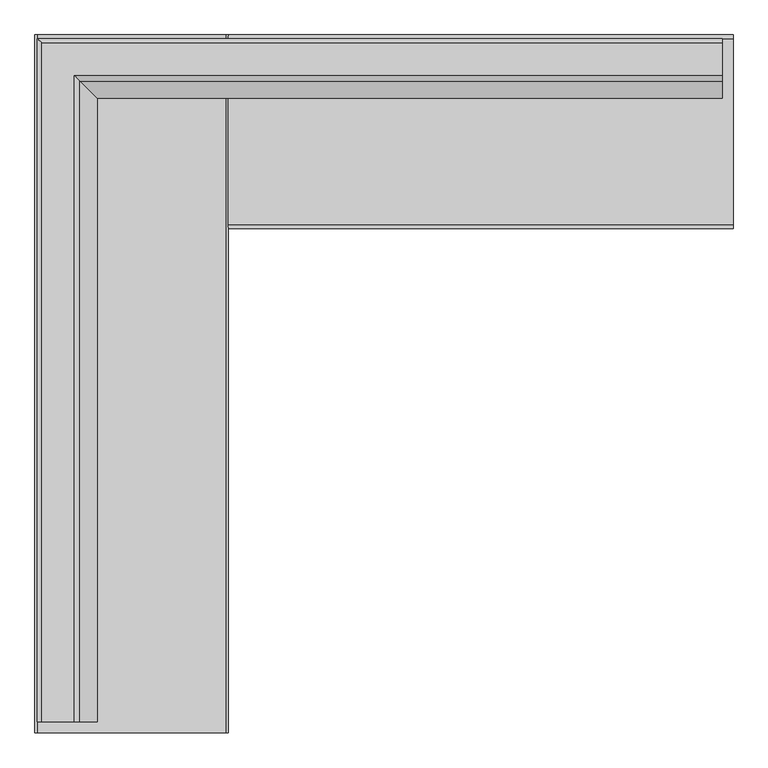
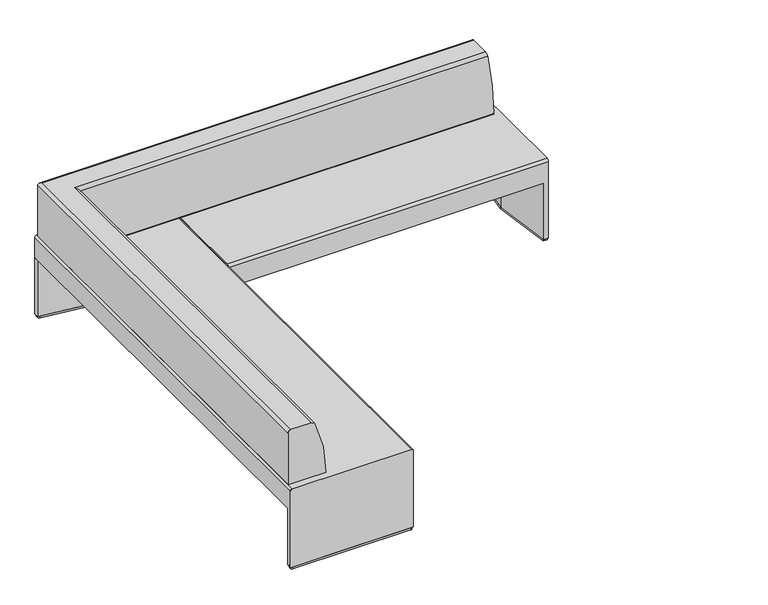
"""IFC4 building model written with IfcOpenShell, lengths in millimetres: furniture geometry, Coalesse_AM_Seating_Bench_Together_LeftCorner : 1.5in Back Offset - 96.5D x 96.5W."""

from ifc_helpers import new_model, si_unit, point, frame, frame_2d, origin, origin_with_axes, place, context, project, spatial, polyline, circle_curve, ellipse_curve, trimmed, segment, composite_curve, outline, extrude, source, transform, mapped, element, save
from ifc_brep_helpers import plane_surface, cylinder_surface, advanced_brep


def furniture_f36d45e6(model_context):
    return source(origin(), model_context, "Body", "SolidModel", [
        extrude(outline(composite_curve([segment(polyline([(1701.7260341, 342.7173042), (1745.4494541, 668.3404046)]), True, "CONTINUOUS"), segment(trimmed(circle_curve(frame_2d((1752.4178665, 667.4047129)), 7.0309522), [point((1745.4494541, 668.3404046))], [point((1752.4121236, 674.4356628))], False, "CARTESIAN"), True, "CONTINUOUS"), segment(polyline([(1752.4121236, 674.4356628), (1764.935141, 674.4458915)]), True, "CONTINUOUS"), segment(trimmed(circle_curve(frame_2d((1764.9403277, 668.0958937)), 6.35), [point((1764.935141, 674.4458915))], [point((1771.2903256, 668.1010803))], False, "CARTESIAN"), True, "CONTINUOUS"), segment(polyline([(1771.2903256, 668.1010803), (1771.8258418, 12.4700002)]), True, "CONTINUOUS"), segment(trimmed(circle_curve(frame_2d((1765.4758439, 12.4648135)), 6.35), [point((1771.8258418, 12.4700002))], [point((1765.4810305, 6.1148157))], False, "CARTESIAN"), True, "CONTINUOUS"), segment(polyline([(1765.4810305, 6.1148157), (1753.0237657, 6.1046406)]), True, "CONTINUOUS"), segment(trimmed(circle_curve(frame_2d((1753.0185791, 12.4546385)), 6.35), [point((1753.0237657, 6.1046406))], [point((1746.7264214, 11.5995062))], False, "CARTESIAN"), True, "CONTINUOUS"), segment(polyline([(1746.7264214, 11.5995062), (1701.7260341, 342.7173042)]), True, "CONTINUOUS")], self_intersect=False)), origin_with_axes(), (0.0, 0.0, 1.0), 12.7976677),
        extrude(outline(composite_curve([segment(polyline([(-342.242834, 610.6565573), (-667.8301127, 654.6459299)]), True, "CONTINUOUS"), segment(trimmed(circle_curve(frame_2d((-666.8887296, 661.6135757)), 7.0309522), [point((-667.8301127, 654.6459299))], [point((-673.9196818, 661.6135757))], False, "CARTESIAN"), True, "CONTINUOUS"), segment(polyline([(-673.9196818, 661.6135757), (-673.9196818, 674.1365973)]), True, "CONTINUOUS"), segment(trimmed(circle_curve(frame_2d((-667.5696818, 674.1365973)), 6.35), [point((-673.9196818, 674.1365973))], [point((-667.5696818, 680.4865973))], False, "CARTESIAN"), True, "CONTINUOUS"), segment(polyline([(-667.5696818, 680.4865973), (-11.938383, 680.4865973)]), True, "CONTINUOUS"), segment(trimmed(circle_curve(frame_2d((-11.938383, 674.1365973)), 6.35), [point((-11.938383, 680.4865973))], [point((-5.588383, 674.1365973))], False, "CARTESIAN"), True, "CONTINUOUS"), segment(polyline([(-5.588383, 674.1365973), (-5.588383, 661.6793283)]), True, "CONTINUOUS"), segment(trimmed(circle_curve(frame_2d((-11.938383, 661.6793283)), 6.35), [point((-5.588383, 661.6793283))], [point((-11.0883904, 655.3864742))], False, "CARTESIAN"), True, "CONTINUOUS"), segment(polyline([(-11.0883904, 655.3864742), (-342.242834, 610.6565573)]), True, "CONTINUOUS")], self_intersect=False)), origin_with_axes(), (0.0, 0.0, 1.0), 12.7976677),
        extrude(outline(composite_curve([segment(polyline([(-342.242834, -1700.1204812), (-11.0883904, -1744.8503981)]), True, "CONTINUOUS"), segment(trimmed(circle_curve(frame_2d((-11.938383, -1751.1432522)), 6.35), [point((-11.0883904, -1744.8503981))], [point((-5.588383, -1751.1432522))], False, "CARTESIAN"), True, "CONTINUOUS"), segment(polyline([(-5.588383, -1751.1432522), (-5.588383, -1763.6005212)]), True, "CONTINUOUS"), segment(trimmed(circle_curve(frame_2d((-11.938383, -1763.6005212)), 6.35), [point((-5.588383, -1763.6005212))], [point((-11.938383, -1769.9505212))], False, "CARTESIAN"), True, "CONTINUOUS"), segment(polyline([(-11.938383, -1769.9505212), (-667.5696818, -1769.9505212)]), True, "CONTINUOUS"), segment(trimmed(circle_curve(frame_2d((-667.5696818, -1763.6005212)), 6.35), [point((-667.5696818, -1769.9505212))], [point((-673.9196818, -1763.6005212))], False, "CARTESIAN"), True, "CONTINUOUS"), segment(polyline([(-673.9196818, -1763.6005212), (-673.9196818, -1751.0774996)]), True, "CONTINUOUS"), segment(trimmed(circle_curve(frame_2d((-666.8887296, -1751.0774996)), 7.0309522), [point((-673.9196818, -1751.0774996))], [point((-667.8301127, -1744.1098538))], False, "CARTESIAN"), True, "CONTINUOUS"), segment(polyline([(-667.8301127, -1744.1098538), (-342.242834, -1700.1204812)]), True, "CONTINUOUS")], self_intersect=False)), origin_with_axes(), (0.0, 0.0, 1.0), 12.7976677),
        advanced_brep(
        [(1771.7783223, 12.7, 471.2287949), (1771.7783223, 0.0, 458.5287949), (1771.7783223, 0.0, 12.7976677), (1771.7783223, 680.4865973, 12.7976677), (1771.7783223, 680.4865973, 458.5287949), (1771.7783223, 667.7865973, 471.2287949), (0.0, 12.7, 471.2287949), (0.0, 667.7865973, 471.2287949), (0.0, 680.4865973, 458.5287949), (0.0, 680.4865973, 343.3718099), (0.0, 0.0, 343.3718099), (0.0, 0.0, 458.5287949), (1745.6026241, 0.0, 343.3718099), (1745.6015424, 0.0, 12.7976677), (1745.9085944, 680.4865973, 343.3718099), (1701.2700419, 337.8527218, 343.3718099), (1745.9096556, 680.4865973, 12.7976677), (1701.2700419, 337.8527218, 12.7976677)],
        [
            (0, 1, circle_curve(frame((1771.7783223, 12.7, 458.5287949), z_axis=(1.0, 0.0, 0.0), x_axis=(0.0, -1.0, 0.0)), 12.7)),
            (1, 2),
            (2, 3),
            (3, 4),
            (4, 5, circle_curve(frame((1771.7783223, 667.7865973, 458.5287949), z_axis=(1.0, 0.0, 0.0), x_axis=(0.0, -1.0, 0.0)), 12.7)),
            (5, 0),
            (6, 7),
            (7, 8, circle_curve(frame((0.0, 667.7865973, 458.5287949), z_axis=(-1.0, 0.0, 0.0), x_axis=(0.0, -1.0, 0.0)), 12.7)),
            (8, 9),
            (9, 10),
            (10, 11),
            (11, 6, circle_curve(frame((0.0, 12.7, 458.5287949), z_axis=(-1.0, 0.0, 0.0), x_axis=(0.0, -1.0, 0.0)), 12.7)),
            (0, 6),
            (11, 1),
            (10, 12),
            (12, 13),
            (13, 2),
            (9, 14),
            (14, 15),
            (15, 12),
            (3, 16),
            (16, 14),
            (8, 4),
            (7, 5),
            (17, 16),
            (13, 17),
            (15, 17),
        ],
        [
            plane_surface(frame((1771.7783223, 0.0, 458.5287949), z_axis=(1.0, 0.0, 0.0), x_axis=(0.0, 0.0, -1.0))),
            plane_surface(frame((0.0, 0.0, 458.5287949), z_axis=(-1.0, 0.0, 0.0), x_axis=(0.0, 0.0, 1.0))),
            cylinder_surface(frame((0.0, 12.7, 458.5287949), z_axis=(1.0, 0.0, 0.0), x_axis=(0.0, -1.0, 0.0)), 12.7),
            plane_surface(frame((1771.7783223, 0.0, 458.5287949), z_axis=(0.0, -1.0, 0.0), x_axis=(-1.0, 0.0, 0.0))),
            plane_surface(frame((1771.7783223, 0.0, 343.3718099), z_axis=(0.0, 0.0, -1.0), x_axis=(-1.0, 0.0, 0.0))),
            plane_surface(frame((1771.7783223, 680.4865973, 343.3718099), z_axis=(0.0, 1.0, 0.0), x_axis=(-1.0, 0.0, 0.0))),
            cylinder_surface(frame((0.0, 667.7865973, 458.5287949), z_axis=(1.0, 0.0, 0.0), x_axis=(0.0, -1.0, 0.0)), 12.7),
            plane_surface(frame((1771.7783223, 667.7865973, 471.2287949), z_axis=(0.0, 0.0, 1.0), x_axis=(-1.0, 0.0, 0.0))),
            plane_surface(frame((1701.2700419, 337.8527218, 12.7976677), z_axis=(0.0, 0.0, -1.0), x_axis=(-0.13010336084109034, 0.9915004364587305, 0.0))),
            plane_surface(frame((1701.2700419, 337.8527218, 343.3718099), z_axis=(-0.9915004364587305, -0.13010336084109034, 0.0), x_axis=(0.0, 0.0, -1.0))),
            plane_surface(frame((1745.9096556, 680.4947435, 343.3718099), z_axis=(-0.9916200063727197, 0.1291888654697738, 0.0), x_axis=(0.0, 0.0, -1.0))),
        ],
        [
            (0, [[1, 2, 3, 4, 5, 6]]),
            (1, [[7, 8, 9, 10, 11, 12]]),
            (2, [[-1, 13, -12, 14]]),
            (3, [[-2, -14, -11, 15, 16, 17]]),
            (4, [[-10, 18, 19, 20, -15]]),
            (5, [[-4, 21, 22, -18, -9, 23]]),
            (6, [[-5, -23, -8, 24]]),
            (7, [[-6, -24, -7, -13]]),
            (8, [[25, -21, -3, -17, 26]]),
            (9, [[-26, -16, -20, 27]]),
            (10, [[-25, -27, -19, -22]]),
        ],
    ),
        advanced_brep(
        [(0.0, -1770.8336068, 462.8584293), (-8.3703656, -1770.8336068, 471.2287949), (-669.1616777, -1770.8336068, 471.2287949), (-679.3216777, -1770.8336068, 461.0687949), (-679.3216777, -1770.8336068, 12.7976677), (0.0, -1770.8336068, 12.7976677), (0.0, 680.2663932, 343.3718099), (-679.3216777, 680.2663932, 343.3718099), (-679.3216777, 680.2663932, 461.0687949), (-669.1616777, 680.2663932, 471.2287949), (-8.3703656, 680.2663932, 471.2287949), (0.0, 680.2663932, 462.8584293), (0.0, -1744.8418934, 12.7976677), (0.0, -1744.8418934, 343.3718099), (-679.3216777, -1744.8418934, 343.3718099), (-679.3216777, -1744.8418934, 12.7976677), (-337.6103648, -1700.4329621, 343.3718099), (-337.6103648, -1700.4329621, 12.7976677)],
        [
            (0, 1, circle_curve(frame((-8.3703656, -1770.8336068, 462.8584293), z_axis=(0.0, -1.0, 0.0), x_axis=(1.0, 0.0, 0.0)), 8.3703656)),
            (1, 2),
            (2, 3, circle_curve(frame((-669.1616777, -1770.8336068, 461.0687949), z_axis=(0.0, -1.0, 0.0), x_axis=(1.0, 0.0, 0.0)), 10.16)),
            (3, 4),
            (4, 5),
            (5, 0),
            (6, 7),
            (7, 8),
            (8, 9, circle_curve(frame((-669.1616777, 680.2663932, 461.0687949), z_axis=(0.0, 1.0, 0.0), x_axis=(1.0, 0.0, 0.0)), 10.16)),
            (9, 10),
            (10, 11, circle_curve(frame((-8.3703656, 680.2663932, 462.8584293), z_axis=(0.0, 1.0, 0.0), x_axis=(1.0, 0.0, 0.0)), 8.3703656)),
            (11, 6),
            (5, 12),
            (12, 13),
            (13, 6),
            (11, 0),
            (10, 1),
            (9, 2),
            (8, 3),
            (7, 14),
            (14, 15),
            (15, 4),
            (13, 16),
            (16, 14),
            (17, 12),
            (15, 17),
            (16, 17),
        ],
        [
            plane_surface(frame((0.0, -1770.8336068, 432.906134), z_axis=(0.0, -1.0, 0.0), x_axis=(0.0, 0.0, 1.0))),
            plane_surface(frame((0.0, 680.2663932, 432.906134), z_axis=(0.0, 1.0, 0.0), x_axis=(0.0, 0.0, -1.0))),
            plane_surface(frame((0.0, -1770.8336068, 343.3718099), z_axis=(1.0, 0.0, 0.0), x_axis=(0.0, 1.0, 0.0))),
            cylinder_surface(frame((-8.3703656, 680.2663932, 462.8584293), z_axis=(0.0, -1.0, 0.0), x_axis=(1.0, 0.0, 0.0)), 8.3703656),
            plane_surface(frame((-8.3703656, -1770.8336068, 471.2287949), z_axis=(0.0, 0.0, 1.0), x_axis=(0.0, 1.0, 0.0))),
            cylinder_surface(frame((-669.1616777, 680.2663932, 461.0687949), z_axis=(0.0, -1.0, 0.0), x_axis=(1.0, 0.0, 0.0)), 10.16),
            plane_surface(frame((-679.3216777, -1770.8336068, 461.0687949), z_axis=(-1.0, 0.0, 0.0), x_axis=(0.0, 1.0, 0.0))),
            plane_surface(frame((-679.3216777, -1770.8336068, 343.3718099), z_axis=(0.0, 0.0, -1.0), x_axis=(0.0, 1.0, 0.0))),
            plane_surface(frame((-679.3216777, -1744.8418934, 12.7976677), z_axis=(0.0, 0.0, -1.0), x_axis=(0.9916606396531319, 0.12887659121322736, 0.0))),
            plane_surface(frame((-337.6103648, -1700.4329621, 343.3718099), z_axis=(-0.12887659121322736, 0.9916606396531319, 0.0), x_axis=(0.0, 0.0, -1.0))),
            plane_surface(frame((0.0, -1744.8418934, 343.3718099), z_axis=(0.13041558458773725, 0.9914594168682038, 0.0), x_axis=(0.0, 0.0, -1.0))),
        ],
        [
            (0, [[1, 2, 3, 4, 5, 6]]),
            (1, [[7, 8, 9, 10, 11, 12]]),
            (2, [[-6, 13, 14, 15, -12, 16]]),
            (3, [[-1, -16, -11, 17]]),
            (4, [[-2, -17, -10, 18]]),
            (5, [[-3, -18, -9, 19]]),
            (6, [[-4, -19, -8, 20, 21, 22]]),
            (7, [[-7, -15, 23, 24, -20]]),
            (8, [[25, -13, -5, -22, 26]]),
            (9, [[-26, -21, -24, 27]]),
            (10, [[-25, -27, -23, -14]]),
        ],
    ),
        extrude(outline(polyline([(-337.6103648, 610.0859526), (-679.4232219, 654.5080806), (-679.4232219, 680.4865973), (0.0, 680.4865973), (0.0, 654.4948838), (-337.6103648, 610.0859526)])), frame((0.0, 0.0, 12.7976677), z_axis=(0.0, 0.0, 1.0), x_axis=(1.0, 0.0, 0.0)), (0.0, 0.0, 1.0), 330.5741422),
        advanced_brep(
        [(-542.7579952, -1732.7336068, 789.6908243), (-654.9720681, -1732.7336068, 789.6908243), (-670.6127132, -1732.7336068, 774.0501793), (-670.6127132, -1732.7336068, 471.9907949), (-669.8507132, -1732.7336068, 471.2287949), (-467.2326916, -1732.7336068, 471.2287949), (-460.8827115, -1732.7336068, 477.5628851), (-521.8690853, -1732.7336068, 775.9296487), (-542.7579952, 539.2094278, 789.6908243), (1733.6783223, 539.2094278, 789.6908243), (1733.6783223, 651.4235007, 789.6908243), (-654.9720681, 651.4235007, 789.6908243), (-670.6127132, 667.0641458, 774.0501793), (-670.6127132, 667.0641458, 471.9907949), (-669.8507132, 666.3021458, 471.2287949), (1733.6783223, 666.3021458, 471.2287949), (1733.6783223, 463.6841242, 471.2287949), (-467.2326916, 463.6841242, 471.2287949), (-460.8827115, 457.3341441, 477.5628851), (-521.8690853, 518.3205179, 775.9296487), (1733.6783223, 518.3205179, 775.9296487), (1733.6783223, 457.3341441, 477.5628851), (1733.6783223, 667.0641458, 471.9907949), (1733.6783223, 667.0641458, 774.0501793)],
        [
            (0, 1),
            (1, 2, circle_curve(frame((-654.9720681, -1732.7336068, 774.0501793), z_axis=(0.0, -1.0, 0.0), x_axis=(-1.0, 0.0, 0.0)), 15.6406451)),
            (2, 3),
            (3, 4, circle_curve(frame((-669.8507132, -1732.7336068, 471.9907949), z_axis=(0.0, -1.0, 0.0), x_axis=(-1.0, 0.0, 0.0)), 0.762)),
            (4, 5),
            (5, 6, circle_curve(frame((-467.2326916, -1732.7336068, 477.5787949), z_axis=(0.0, -1.0, 0.0), x_axis=(-1.0, 0.0, 0.0)), 6.35)),
            (6, 7, circle_curve(frame((-1212.0260917, -1732.7336068, 479.4448666), z_axis=(0.0, -1.0, 0.0), x_axis=(-1.0, 0.0, 0.0)), 751.1457378)),
            (7, 0, circle_curve(frame((-542.7579952, -1732.7336068, 766.9559749), z_axis=(0.0, -1.0, 0.0), x_axis=(-1.0, 0.0, 0.0)), 22.7348495)),
            (0, 8),
            (8, 9),
            (9, 10),
            (10, 11),
            (11, 1),
            (11, 12, ellipse_curve(frame((-654.9720681, 651.4235007, 774.0501793), z_axis=(-0.7071067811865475, -0.7071067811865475, 0.0), x_axis=(0.7071067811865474, -0.7071067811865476, 0.0)), 22.1192124, 15.6406451)),
            (12, 2),
            (12, 13),
            (13, 3),
            (13, 14, ellipse_curve(frame((-669.8507132, 666.3021458, 471.9907949), z_axis=(-0.7071067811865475, -0.7071067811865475, 0.0), x_axis=(0.7071067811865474, -0.7071067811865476, 0.0)), 1.0776307, 0.762)),
            (14, 4),
            (14, 15),
            (15, 16),
            (16, 17),
            (17, 5),
            (17, 18, ellipse_curve(frame((-467.2326916, 463.6841242, 477.5787949), z_axis=(-0.7071067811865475, -0.7071067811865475, 0.0), x_axis=(0.7071067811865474, -0.7071067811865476, 0.0)), 8.9802561, 6.35)),
            (18, 6),
            (18, 19, ellipse_curve(frame((-1212.0260917, 1208.4775243, 479.4448666), z_axis=(-0.7071067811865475, -0.7071067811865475, 0.0), x_axis=(0.7071067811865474, -0.7071067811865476, 0.0)), 1062.2804897, 751.1457378)),
            (19, 7),
            (19, 8, ellipse_curve(frame((-542.7579952, 539.2094278, 766.9559749), z_axis=(-0.7071067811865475, -0.7071067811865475, 0.0), x_axis=(0.7071067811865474, -0.7071067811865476, 0.0)), 32.1519324, 22.7348495)),
            (9, 20, circle_curve(frame((1733.6783223, 539.2094278, 766.9559749), z_axis=(1.0, 0.0, 0.0), x_axis=(0.0, 1.0, 0.0)), 22.7348495)),
            (20, 21, circle_curve(frame((1733.6783223, 1208.4775243, 479.4448666), z_axis=(1.0, 0.0, 0.0), x_axis=(0.0, 1.0, 0.0)), 751.1457378)),
            (21, 16, circle_curve(frame((1733.6783223, 463.6841242, 477.5787949), z_axis=(1.0, 0.0, 0.0), x_axis=(0.0, 1.0, 0.0)), 6.35)),
            (15, 22, circle_curve(frame((1733.6783223, 666.3021458, 471.9907949), z_axis=(1.0, 0.0, 0.0), x_axis=(0.0, 1.0, 0.0)), 0.762)),
            (22, 23),
            (23, 10, circle_curve(frame((1733.6783223, 651.4235007, 774.0501793), z_axis=(1.0, 0.0, 0.0), x_axis=(0.0, 1.0, 0.0)), 15.6406451)),
            (23, 12),
            (22, 13),
            (21, 18),
            (20, 19),
        ],
        [
            plane_surface(frame((-460.0482755, -1732.7336068, 0.0), z_axis=(0.0, -1.0, 0.0), x_axis=(0.0, 0.0, 1.0))),
            plane_surface(frame((-542.7579952, -1732.7336068, 789.6908243), z_axis=(0.0, 0.0, 1.0), x_axis=(0.0, 1.0, 0.0))),
            cylinder_surface(frame((-654.9720681, -1732.7336068, 774.0501793), z_axis=(0.0, -1.0, 0.0), x_axis=(-1.0, 0.0, 0.0)), 15.6406451),
            plane_surface(frame((-670.6127132, -1732.7336068, 774.0501793), z_axis=(-1.0, 0.0, 0.0), x_axis=(0.0, 1.0, 0.0))),
            cylinder_surface(frame((-669.8507132, -1732.7336068, 471.9907949), z_axis=(0.0, -1.0, 0.0), x_axis=(-1.0, 0.0, 0.0)), 0.762),
            plane_surface(frame((-669.8507132, -1732.7336068, 471.2287949), z_axis=(0.0, 0.0, -1.0), x_axis=(0.0, 1.0, 0.0))),
            cylinder_surface(frame((-467.2326916, -1732.7336068, 477.5787949), z_axis=(0.0, -1.0, 0.0), x_axis=(-1.0, 0.0, 0.0)), 6.35),
            cylinder_surface(frame((-1212.0260917, -1732.7336068, 479.4448666), z_axis=(0.0, -1.0, 0.0), x_axis=(-1.0, 0.0, 0.0)), 751.1457378),
            cylinder_surface(frame((-542.7579952, -1732.7336068, 766.9559749), z_axis=(0.0, -1.0, 0.0), x_axis=(-1.0, 0.0, 0.0)), 22.7348495),
            plane_surface(frame((1733.6783223, 456.4997081, 0.0), z_axis=(1.0, 0.0, 0.0), x_axis=(0.0, 0.0, 1.0))),
            cylinder_surface(frame((-460.0482755, 651.4235007, 774.0501793), z_axis=(-1.0, 0.0, 0.0), x_axis=(0.0, 1.0, 0.0)), 15.6406451),
            plane_surface(frame((-670.6127132, 667.0641458, 774.0501793), z_axis=(0.0, 1.0, 0.0), x_axis=(1.0, 0.0, 0.0))),
            cylinder_surface(frame((-460.0482755, 666.3021458, 471.9907949), z_axis=(-1.0, 0.0, 0.0), x_axis=(0.0, 1.0, 0.0)), 0.762),
            cylinder_surface(frame((-460.0482755, 463.6841242, 477.5787949), z_axis=(-1.0, 0.0, 0.0), x_axis=(0.0, 1.0, 0.0)), 6.35),
            cylinder_surface(frame((-460.0482755, 1208.4775243, 479.4448666), z_axis=(-1.0, 0.0, 0.0), x_axis=(0.0, 1.0, 0.0)), 751.1457378),
            cylinder_surface(frame((-460.0482755, 539.2094278, 766.9559749), z_axis=(-1.0, 0.0, 0.0), x_axis=(0.0, 1.0, 0.0)), 22.7348495),
        ],
        [
            (0, [[1, 2, 3, 4, 5, 6, 7, 8]]),
            (1, [[-1, 9, 10, 11, 12, 13]]),
            (2, [[-2, -13, 14, 15]]),
            (3, [[-3, -15, 16, 17]]),
            (4, [[-4, -17, 18, 19]]),
            (5, [[-5, -19, 20, 21, 22, 23]]),
            (6, [[-6, -23, 24, 25]]),
            (7, [[-7, -25, 26, 27]]),
            (8, [[-8, -27, 28, -9]]),
            (9, [[29, 30, 31, -21, 32, 33, 34, -11]]),
            (10, [[-14, -12, -34, 35]]),
            (11, [[-16, -35, -33, 36]]),
            (12, [[-18, -36, -32, -20]]),
            (13, [[-24, -22, -31, 37]]),
            (14, [[-26, -37, -30, 38]]),
            (15, [[-28, -38, -29, -10]]),
        ],
    ),
    ])


if __name__ == "__main__":
    model = new_model("IFC4")
    model_context = context("Model", 3, world=origin())
    ifc_project = project(units=[si_unit("LENGTHUNIT", "METRE", prefix="MILLI")], contexts=[model_context])
    site = spatial("IfcSite", under=ifc_project)
    building = spatial("IfcBuilding", under=site)
    placement = place(None, origin())
    furniture_shape = furniture_f36d45e6(model_context)
    element("IfcFurniture", 1, ObjectType="Coalesse_AM_Seating_Bench_Together_LeftCorner : 1.5in Back Offset - 96.5D x 96.5W", at=placement, inside=building, context=model_context, shape_type="MappedRepresentation", body=[
        mapped(furniture_shape, transform((0.0, 0.0, 0.0), x_axis=(1.0, 0.0, 0.0), y_axis=(0.0, 1.0, 0.0), z_axis=(0.0, 0.0, 1.0))),
    ])
    save(model, "model.ifc")
